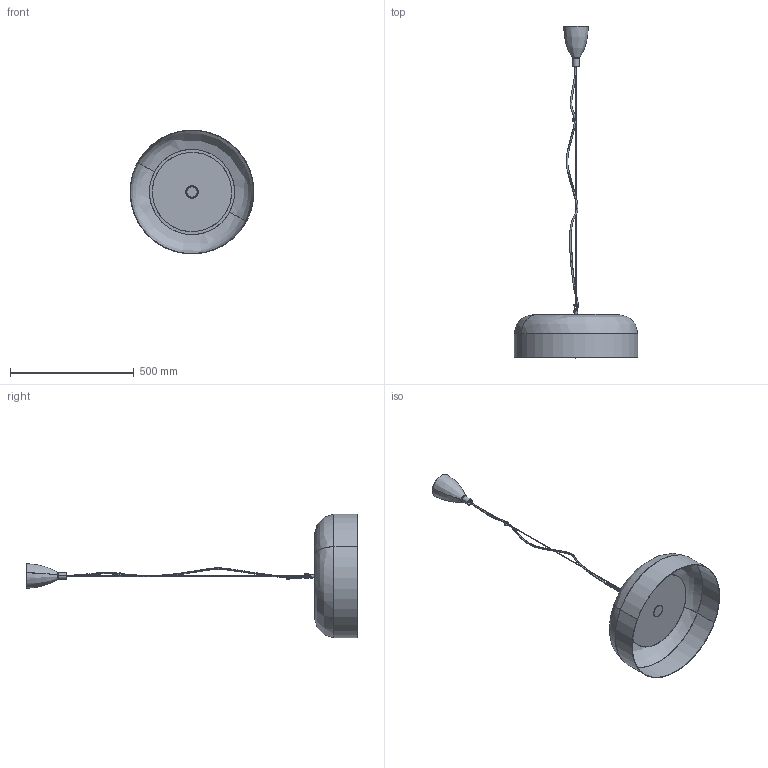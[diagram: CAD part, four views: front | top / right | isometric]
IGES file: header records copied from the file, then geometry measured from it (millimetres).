
Start section: SolidWorks IGES file using analytic representation for surfaces
Global section: file name: E:\3D lampy\Bowl\Bowl zwis L\Bowl L.IGS; native system: SolidWorks 2016; preprocessor: SolidWorks 2016; author: Asia; date: 161020.133725; units: millimetre
Bounding box: 500 x 1340.27 x 500 mm (x, y, z)
Surface area: 1188239.9 mm2 (no closed solid volume)
Topology: 0 solids, 0 shells, 830 faces, 9117 edges, 9077 vertices
Faces by surface type: bspline 504, revolution 326
